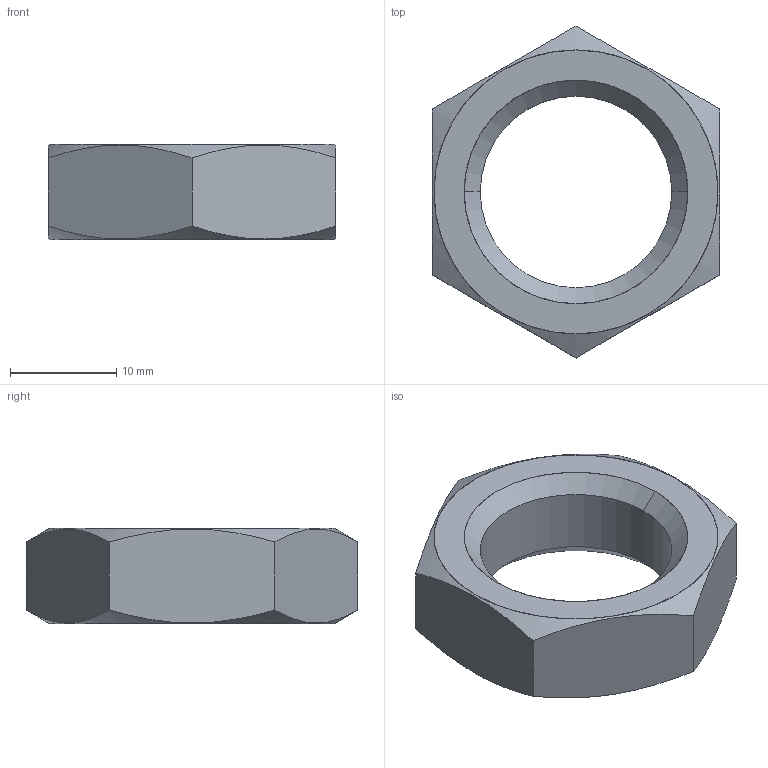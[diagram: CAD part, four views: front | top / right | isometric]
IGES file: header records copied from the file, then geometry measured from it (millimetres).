
Start section: SolidWorks IGES file using analytic representation for surfaces
Global section: file name: C:\Users\liam_\OneDrive\Desktop\Work\Mat Davis Pending 20181125\automotion\P SERIES\P0307.ZP_v2\P0307.ZP_v2_20181215_IGES\P0307.180-150-ZP.igs; native system: SolidWorks 2017; preprocessor: SolidWorks 2017; author: liam_; date: 181215.155021; units: millimetre
Bounding box: 27 x 31.18 x 9 mm (x, y, z)
Surface area: 1938.5 mm2 (no closed solid volume)
Topology: 0 solids, 0 shells, 18 faces, 368 edges, 368 vertices
Faces by surface type: revolution 10, bspline 8
